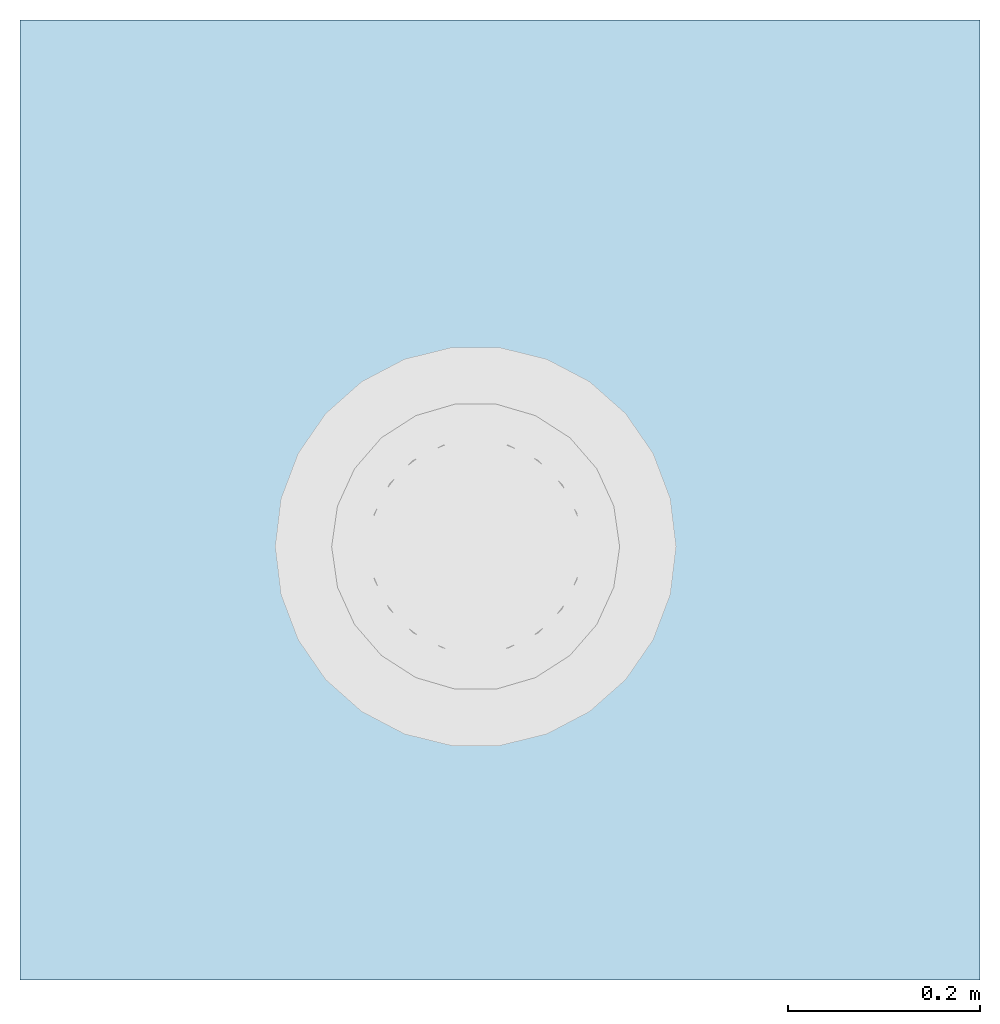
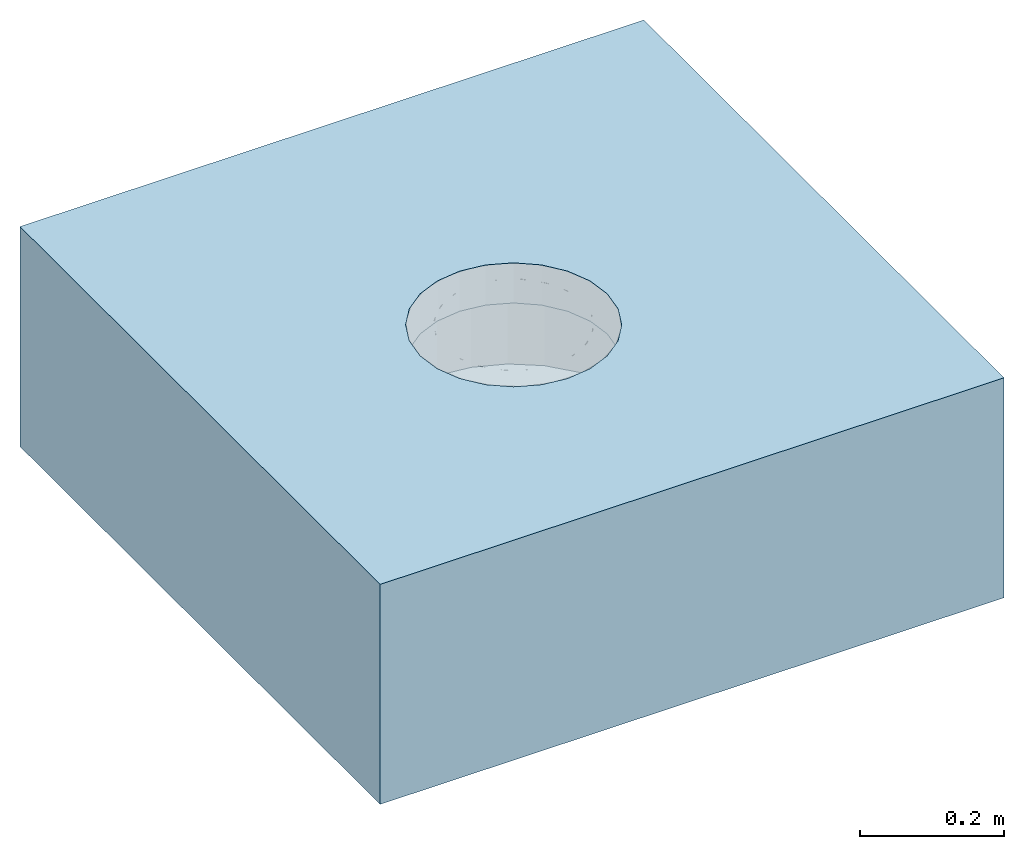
# One storey, incomplete: 1 slab, 1 opening.
"""IFC2X3 building model written with IfcOpenShell, lengths in millimetres."""

import ifcopenshell
import ifcopenshell.guid

model = None  # the IFC model being written
_history = None  # IfcOwnerHistory: only IFC2X3 demands one
_inside = {}  # id of a spatial element -> (the spatial element, [elements in it])
_under = {}  # id of a project, library or spatial element -> (it, [spatial elements below it])
_declared = {}  # id of a project -> (the project, [libraries it declares])
_typed = {}  # id of a type object -> (the type object, [elements of that type])
_made_of = {}  # id of a material, layer set ... -> (it, [elements and type objects made of it])


def new_model(schema):
    """Start an empty IFC model of exactly this schema.

    Asked for "IFC4X3", IfcOpenShell would pick the latest addendum, in which some entities
    have other attributes; the version numbers below select the first issue.
    IFC2X3 requires an IfcOwnerHistory on every rooted entity: one is made here for all.
    """
    global model, _history
    if schema == "IFC4X3":
        model = ifcopenshell.file(schema_version=(4, 3, 0, 0))
    else:
        model = ifcopenshell.file(schema=schema)
    _inside.clear()
    _under.clear()
    _declared.clear()
    _typed.clear()
    _made_of.clear()
    _history = None
    if model.schema == "IFC2X3":
        org = make("IfcOrganization", Name="unknown")
        user = make(
            "IfcPersonAndOrganization",
            ThePerson=make("IfcPerson", FamilyName="unknown"),
            TheOrganization=org,
        )
        app = make(
            "IfcApplication",
            ApplicationDeveloper=org,
            Version="unknown",
            ApplicationFullName="unknown",
            ApplicationIdentifier="unknown",
        )
        _history = make(
            "IfcOwnerHistory",
            OwningUser=user,
            OwningApplication=app,
            ChangeAction="ADDED",
            CreationDate=0,
        )
    return model


def make(cls, **values):
    """One entity of the class cls with the attributes given. An attribute that is None is left unset."""
    return model.create_entity(
        cls, **{name: value for name, value in values.items() if value is not None}
    )


def entity(cls, *values):
    """Any entity or typed value of the class cls, its attributes in the order of the schema. None: left unset."""
    e = model.create_entity(cls)
    for i, value in enumerate(values):
        if value is not None:
            e[i] = value
    return e


def rooted(cls, **values):
    """An entity with a GlobalId (a new one), such as an element, a storey or a relation."""
    return make(cls, GlobalId=ifcopenshell.guid.new(), OwnerHistory=_history, **values)


def si_unit(unit_type, name, prefix=None):
    """IfcSIUnit, for example si_unit("LENGTHUNIT", "METRE", prefix="MILLI")."""
    return make("IfcSIUnit", UnitType=unit_type, Prefix=prefix, Name=name)


def converted_unit(unit_type, name, factor, base, dimensions=None, offset=None):
    """IfcConversionBasedUnit, such as the inch: factor (a typed value) times the base unit."""
    return make(
        "IfcConversionBasedUnit"
        if offset is None
        else "IfcConversionBasedUnitWithOffset",
        ConversionOffset=offset,
        Dimensions=None
        if dimensions is None
        else entity("IfcDimensionalExponents", *dimensions),
        UnitType=unit_type,
        Name=name,
        ConversionFactor=make(
            "IfcMeasureWithUnit", ValueComponent=factor, UnitComponent=base
        ),
    )


def derived_unit(unit_type, elements):
    """IfcDerivedUnit: a product of units, each with its exponent."""
    return make(
        "IfcDerivedUnit",
        Elements=[
            make("IfcDerivedUnitElement", Unit=unit, Exponent=power)
            for unit, power in elements
        ],
        UnitType=unit_type,
    )


def assignment(units):
    """IfcUnitAssignment: the units of a project."""
    return None if units is None else make("IfcUnitAssignment", Units=units)


def point(xyz):
    """IfcCartesianPoint."""
    return None if xyz is None else make("IfcCartesianPoint", Coordinates=xyz)


def direction(xyz):
    """IfcDirection."""
    return None if xyz is None else make("IfcDirection", DirectionRatios=xyz)


def frame(location, z_axis=None, x_axis=None):
    """IfcAxis2Placement3D, a coordinate frame: its origin and axes. An axis left out is left unset."""
    return make(
        "IfcAxis2Placement3D",
        Location=point(location),
        Axis=direction(z_axis),
        RefDirection=direction(x_axis),
    )


def frame_2d(location, x_axis=None):
    """IfcAxis2Placement2D, a coordinate frame in the plane: its origin and x axis."""
    return make(
        "IfcAxis2Placement2D", Location=point(location), RefDirection=direction(x_axis)
    )


def origin():
    """The frame at (0, 0, 0) with its axes left unset."""
    return frame((0.0, 0.0, 0.0))


def place(relative_to, where):
    """IfcLocalPlacement: puts the frame where relative to a parent placement (None: the world)."""
    return make(
        "IfcLocalPlacement", PlacementRelTo=relative_to, RelativePlacement=where
    )


def context(
    kind, dimensions, precision=None, world=None, true_north=None, identifier=None
):
    """IfcGeometricRepresentationContext, for example the 3D "Model" context."""
    return make(
        "IfcGeometricRepresentationContext",
        ContextIdentifier=identifier,
        ContextType=kind,
        CoordinateSpaceDimension=dimensions,
        Precision=precision,
        WorldCoordinateSystem=world,
        TrueNorth=true_north,
    )


def subcontext(parent, identifier, kind, view, scale=None):
    """IfcGeometricRepresentationSubContext, for example "Body" below "Model"."""
    return make(
        "IfcGeometricRepresentationSubContext",
        ContextIdentifier=identifier,
        ContextType=kind,
        ParentContext=parent,
        TargetScale=scale,
        TargetView=view,
    )


def project(units=None, contexts=None):
    """IfcProject with its units and contexts."""
    return rooted(
        "IfcProject",
        Name="project",
        RepresentationContexts=contexts,
        UnitsInContext=assignment(units),
    )


def spatial(cls, under=None, at=None, **own):
    """A site, building, storey or space (cls), placed at a placement, below another one or the project."""
    s = rooted(cls, ObjectPlacement=at, **own)
    if under is not None:
        _under.setdefault(under.id(), (under, []))[1].append(s)
    return s


def profile(cls, at=None, kind="AREA", **sizes):
    """A parametric profile (cls). Its sizes go by their IFC names, for example OverallWidth=200.0."""
    return make(cls, ProfileType=kind, Position=at, **sizes)


def rectangle(**sizes):
    """IfcRectangleProfileDef."""
    return profile("IfcRectangleProfileDef", **sizes)


def extrude(swept, where, along, depth):
    """IfcExtrudedAreaSolid: the profile swept, set in the frame where, extruded along a direction by depth."""
    return make(
        "IfcExtrudedAreaSolid",
        SweptArea=swept,
        Position=where,
        ExtrudedDirection=direction(along),
        Depth=depth,
    )


def faces_of(points, faces, orient=None, outer=None):
    """IfcFace entities. A face is a list of loops; a loop is a list of indices into points, from 0.

    orient and outer hold one flag for each loop. By default every Orientation is true, the
    first loop of a face is its IfcFaceOuterBound and the others are IfcFaceBound.
    """
    made = []
    for i, loops in enumerate(faces):
        bounds = []
        for j, loop in enumerate(loops):
            is_outer = j == 0 if outer is None else outer[i][j]
            bounds.append(
                make(
                    "IfcFaceOuterBound" if is_outer else "IfcFaceBound",
                    Bound=make("IfcPolyLoop", Polygon=[points[k] for k in loop]),
                    Orientation=True if orient is None else orient[i][j],
                )
            )
        made.append(make("IfcFace", Bounds=bounds))
    return made


def faceted_brep(points, faces, orient=None, outer=None, voids=None):
    """IfcFacetedBrep: a solid bounded by flat faces; with voids (closed shells), ...WithVoids."""
    shared = [point(p) for p in points]
    hull = make("IfcClosedShell", CfsFaces=faces_of(shared, faces, orient, outer))
    if voids is None:
        return make("IfcFacetedBrep", Outer=hull)
    return make(
        "IfcFacetedBrepWithVoids",
        Outer=hull,
        Voids=[
            make(cls, CfsFaces=faces_of(shared, fs, o, b)) for cls, fs, o, b in voids
        ],
    )


def shape(context_of_items, identifier, shape_type, items):
    """IfcShapeRepresentation: the items that make up one representation, for example the "Body"."""
    return make(
        "IfcShapeRepresentation",
        ContextOfItems=context_of_items,
        RepresentationIdentifier=identifier,
        RepresentationType=shape_type,
        Items=items,
    )


def material(Name=None, Category=None):
    """IfcMaterial."""
    return make("IfcMaterial", Name=Name, Category=Category)


def layer(
    of_material, thickness, ventilated=None, Name=None, Category=None, Priority=None
):
    """IfcMaterialLayer: one layer of a wall or slab, of a material (None: an air gap)."""
    return make(
        "IfcMaterialLayer",
        Material=of_material,
        LayerThickness=thickness,
        IsVentilated=ventilated,
        Name=Name,
        Category=Category,
        Priority=Priority,
    )


def layer_set(layers, Name=None):
    """IfcMaterialLayerSet."""
    return make("IfcMaterialLayerSet", MaterialLayers=layers, LayerSetName=Name)


def layer_usage(for_layer_set, set_direction, sense, offset, extent=None):
    """IfcMaterialLayerSetUsage: how a layer set lies in its element."""
    return make(
        "IfcMaterialLayerSetUsage",
        ForLayerSet=for_layer_set,
        LayerSetDirection=set_direction,
        DirectionSense=sense,
        OffsetFromReferenceLine=offset,
        ReferenceExtent=extent,
    )


def made_of(thing, what):
    """Note that an element or type object is made of a material, layer set ...; save() writes the relation."""
    if what is not None:
        _made_of.setdefault(what.id(), (what, []))[1].append(thing)
    return thing


def element(
    cls,
    number,
    at=None,
    inside=None,
    cuts=None,
    type_object=None,
    material=None,
    context=None,
    identifier="Body",
    shape_type=None,
    held_by="IfcProductDefinitionShape",
    body=None,
    shapes=None,
    **own,
):
    """One element of the class cls, such as IfcWall. Its Tag is "e" and its number.

    at: its placement. inside: the storey or other place that contains it. cuts: it is an
    opening in that element (IfcRelVoidsElement). A single representation is given by context,
    identifier, shape_type and body (its items); several are given by shapes. held_by: the class
    of the entity that holds the representations. save() writes the other relations.
    """
    e = rooted(cls, Tag="e%d" % number, ObjectPlacement=at, **own)
    if body is not None:
        shapes = [shape(context, identifier, shape_type, body)]
    if shapes is not None:
        e.Representation = make(held_by, Representations=shapes)
    if inside is not None:
        _inside.setdefault(inside.id(), (inside, []))[1].append(e)
    if cuts is not None:
        rooted(
            "IfcRelVoidsElement", RelatingBuildingElement=cuts, RelatedOpeningElement=e
        )
    if type_object is not None:
        _typed.setdefault(type_object.id(), (type_object, []))[1].append(e)
    return made_of(e, material)


def aggregate(whole, parts):
    """IfcRelAggregates: a whole, such as a stair, and the parts it consists of."""
    return rooted("IfcRelAggregates", RelatingObject=whole, RelatedObjects=parts)


def save(model, path):
    """Write the relations noted so far, then the file.

    IfcRelAggregates (storeys below a building ...), IfcRelContainedInSpatialStructure (elements
    in a storey), IfcRelDefinesByType, IfcRelAssociatesMaterial and IfcRelDeclares: one each for
    every whole, place, type object, material and project.
    """
    for whole, parts in _under.values():
        aggregate(whole, parts)
    for where, things in _inside.values():
        rooted(
            "IfcRelContainedInSpatialStructure",
            RelatedElements=things,
            RelatingStructure=where,
        )
    for kind, things in _typed.values():
        rooted("IfcRelDefinesByType", RelatedObjects=things, RelatingType=kind)
    for what, things in _made_of.values():
        rooted("IfcRelAssociatesMaterial", RelatedObjects=things, RelatingMaterial=what)
    for by, libraries in _declared.values():
        rooted("IfcRelDeclares", RelatingContext=by, RelatedDefinitions=libraries)
    model.write(path)


model = new_model("IFC2X3")

# Units and contexts
model_context = context("Model", 3, precision=1e-05, world=origin(), true_north=direction((2.0, 6.12303176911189e-17, 1.0)))
context_of_model = context(None, 3, precision=1e-05, world=origin(), true_north=direction((2.0, 6.12303176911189e-17, 1.0)))
body_context = subcontext(model_context, "Body", "Model", "MODEL_VIEW")
ifc_project = project(units=[si_unit("LENGTHUNIT", "METRE", prefix="MILLI"), converted_unit("AREAUNIT", "SQUARE FOOT", entity("IfcRatioMeasure", 0.09290304), si_unit("AREAUNIT", "SQUARE_METRE"), dimensions=[2, 0, 0, 0, 0, 0, 0]), converted_unit("VOLUMEUNIT", "CUBIC FOOT", entity("IfcRatioMeasure", 0.028316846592), si_unit("VOLUMEUNIT", "CUBIC_METRE"), dimensions=[3, 0, 0, 0, 0, 0, 0]), converted_unit("PLANEANGLEUNIT", "DEGREE", entity("IfcRatioMeasure", 0.0174532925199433), si_unit("PLANEANGLEUNIT", "RADIAN"), dimensions=[0, 0, 0, 0, 0, 0, 0]), si_unit("MASSUNIT", "GRAM", prefix="KILO"), si_unit("TIMEUNIT", "SECOND"), si_unit("THERMODYNAMICTEMPERATUREUNIT", "KELVIN"), derived_unit("THERMALTRANSMITTANCEUNIT", [(si_unit("MASSUNIT", "GRAM", prefix="KILO"), 1), (si_unit("THERMODYNAMICTEMPERATUREUNIT", "KELVIN"), -1), (si_unit("TIMEUNIT", "SECOND"), -3)]), derived_unit("VOLUMETRICFLOWRATEUNIT", [(si_unit("LENGTHUNIT", "METRE"), 3), (si_unit("TIMEUNIT", "SECOND"), -1)]), si_unit("POWERUNIT", "WATT")], contexts=[model_context, context_of_model])

# Site, building, storey
site_placement = place(None, origin())
site = spatial("IfcSite", under=ifc_project, at=site_placement, Name="Default", CompositionType="ELEMENT")
building_placement = place(site_placement, origin())
building = spatial("IfcBuilding", under=site, at=building_placement, CompositionType="ELEMENT")
storey_placement = place(building_placement, origin())
storey = spatial("IfcBuildingStorey", under=building, at=storey_placement, Name="Level 1", CompositionType="ELEMENT", Elevation=0.0)

# Slab, opening
ifc_material_1 = material(Name="Plywood, Sheathing")
ifc_layer_1 = layer(ifc_material_1, 68.0)
ifc_material_2 = material(Name="Default Floor")
ifc_layer_2 = layer(ifc_material_2, 304.8)
ifc_layer_set = layer_set([ifc_layer_1, ifc_layer_2], Name="Floor:Generic - 12\"")
ifc_layer_usage = layer_usage(ifc_layer_set, "AXIS3", "POSITIVE", 0.0)
slab_placement = place(storey_placement, frame((-10598.0627721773, 2392.60708548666, -372.8)))
slab = element("IfcSlab", 1, at=slab_placement, inside=storey, material=ifc_layer_usage, Name="Floor:Generic - 12\"", ObjectType="Floor:Generic - 12\"", PredefinedType="FLOOR", context=body_context, shape_type="SweptSolid", body=[
    extrude(rectangle(XDim=1000.0, YDim=1000.0, at=frame_2d((0.0, 0.0), x_axis=(0.0, -1.0))), frame((500.0, 500.0, 372.8), z_axis=(0.0, 0.0, -1.0), x_axis=(-1.0, 0.0, 0.0)), (0.0, 0.0, 1.0), 372.8),
])
opening_placement = place(slab_placement, frame((262.094627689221, 237.345343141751, 150.204727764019)))
element("IfcOpeningElement", 2, at=opening_placement, cuts=slab, ObjectType="Recess", context=body_context, shape_type="Brep", body=[
    faceted_brep([(306.545407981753, 189.115280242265, 7.59527223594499), (306.545407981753, 239.075264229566, 7.59527223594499), (306.545407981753, 201.246010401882, 3.11727236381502), (306.545407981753, 214.095272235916, 1.5952722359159), (306.545407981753, 226.94453406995, 3.11727236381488), (411.545407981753, 214.095272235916, 1.5952722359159), (411.545407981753, 226.94453406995, 3.11727236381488), (411.545407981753, 201.246010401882, 3.11727236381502), (411.545407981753, 239.075264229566, 7.59527223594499), (411.545407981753, 189.115280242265, 7.59527223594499), (360.451389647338, 239.075264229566, 7.59527223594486), (360.451389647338, 189.115280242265, 7.59527223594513), (1.5952722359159, 239.709316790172, 7.59527223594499), (1.5952722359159, 188.48122768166, 7.59527223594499), (13.8549564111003, 289.448810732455, 7.59527223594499), (37.6618364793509, 334.809030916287, 7.59527223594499), (113.79223392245, 402.254677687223, 7.59527223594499), (161.691329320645, 420.420408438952, 7.59527223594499), (71.6323431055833, 373.153806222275, 7.59527223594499), (212.545907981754, 426.595272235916, 7.59527223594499), (37.6618364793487, 93.3815135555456, 7.59527223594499), (13.8549564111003, 138.741733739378, 7.59527223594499), (113.79223392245, 25.9358667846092, 7.59527223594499), (71.6323431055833, 55.036738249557, 7.59527223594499), (161.691329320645, 7.77013603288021, 7.59527223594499), (212.545907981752, 1.59527223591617, 7.59527223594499), (263.400486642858, 7.77013603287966, 7.59527223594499), (263.400486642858, 420.420408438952, 7.59527223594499), (311.299582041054, 402.254677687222, 7.59527223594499), (353.459472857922, 373.153806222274, 7.59527223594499), (387.429979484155, 334.809030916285, 7.59527223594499), (411.236859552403, 289.448810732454, 7.59527223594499), (423.496543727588, 239.709316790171, 7.59527223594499), (353.45947285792, 55.0367382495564, 7.59527223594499), (387.429979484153, 93.3815135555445, 7.59527223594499), (311.299582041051, 25.9358667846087, 7.59527223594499), (423.496543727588, 188.481227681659, 7.59527223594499), (411.236859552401, 138.741733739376, 7.59527223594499), (342.449809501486, 289.095324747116, 154.595272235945), (411.236859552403, 289.448810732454, 154.595272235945), (387.429979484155, 334.809030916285, 154.595272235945), (318.611999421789, 320.16136367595, 154.595272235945), (357.434883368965, 252.91815618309, 154.595272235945), (423.496543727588, 239.709316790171, 154.595272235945), (362.546013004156, 214.095272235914, 154.595272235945), (353.459472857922, 373.153806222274, 154.595272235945), (251.36879192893, 358.984247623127, 154.595272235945), (311.299582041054, 402.254677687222, 154.595272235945), (263.400486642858, 420.420408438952, 154.595272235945), (212.545907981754, 364.095377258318, 154.595272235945), (212.545907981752, 426.595272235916, 154.595272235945), (287.545960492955, 343.99917375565, 154.595272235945), (423.496543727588, 188.481227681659, 154.595272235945), (357.434883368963, 175.272388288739, 154.595272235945), (411.236859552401, 138.741733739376, 154.595272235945), (342.449809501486, 139.095219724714, 154.595272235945), (387.429979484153, 93.3815135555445, 154.595272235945), (353.45947285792, 55.0367382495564, 154.595272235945), (318.611999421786, 108.02918079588, 154.595272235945), (287.545960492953, 84.1913707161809, 154.595272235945), (311.299582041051, 25.9358667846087, 154.595272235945), (263.400486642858, 7.77013603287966, 154.595272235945), (251.368791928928, 69.206296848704, 154.595272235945), (212.545907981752, 64.0951672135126, 154.595272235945), (212.545907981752, 1.59527223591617, 154.595272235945), (161.691329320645, 420.420408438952, 154.595272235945), (173.723024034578, 358.984247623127, 154.595272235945), (113.79223392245, 402.254677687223, 154.595272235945), (137.545855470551, 343.999173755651, 154.595272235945), (71.6323431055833, 373.153806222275, 154.595272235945), (106.479816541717, 320.161363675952, 154.595272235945), (37.6618364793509, 334.809030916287, 154.595272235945), (82.6420064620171, 289.095324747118, 154.595272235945), (13.8549564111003, 289.448810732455, 154.595272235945), (67.6569325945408, 252.918156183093, 154.595272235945), (1.5952722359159, 239.709316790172, 154.595272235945), (62.5458029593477, 214.095272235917, 154.595272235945), (113.79223392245, 25.9358667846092, 154.595272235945), (137.545855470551, 84.1913707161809, 154.595272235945), (71.6323431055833, 55.036738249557, 154.595272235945), (173.723024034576, 69.206296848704, 154.595272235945), (161.691329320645, 7.77013603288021, 154.595272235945), (106.479816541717, 108.02918079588, 154.595272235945), (67.6569325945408, 175.272388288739, 154.595272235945), (1.5952722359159, 188.48122768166, 154.595272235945), (13.8549564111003, 138.741733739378, 154.595272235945), (37.6618364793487, 93.3815135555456, 154.595272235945), (82.6420064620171, 139.095219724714, 154.595272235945), (251.368791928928, 69.206296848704, 222.595272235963), (137.545855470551, 84.1913707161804, 222.595272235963), (212.545907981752, 64.0951672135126, 222.595272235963), (318.611999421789, 108.02918079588, 222.595272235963), (287.545960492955, 84.1913707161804, 222.595272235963), (342.449809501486, 139.095219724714, 222.595272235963), (357.434883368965, 175.272388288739, 222.595272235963), (82.6420064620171, 139.095219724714, 222.595272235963), (106.479816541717, 108.02918079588, 222.595272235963), (173.723024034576, 69.206296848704, 222.595272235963), (67.6569325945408, 175.272388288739, 222.595272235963), (62.5458029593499, 214.095272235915, 222.595272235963), (357.434883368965, 252.918156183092, 222.595272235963), (251.368791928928, 358.984247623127, 222.595272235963), (342.449809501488, 289.095324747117, 222.595272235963), (287.545960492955, 343.99917375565, 222.595272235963), (318.611999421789, 320.161363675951, 222.595272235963), (67.6569325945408, 252.918156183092, 222.595272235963), (106.479816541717, 320.161363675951, 222.595272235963), (82.6420064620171, 289.095324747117, 222.595272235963), (137.545855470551, 343.99917375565, 222.595272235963), (173.723024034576, 358.984247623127, 222.595272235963), (212.545907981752, 364.095377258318, 222.595272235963), (362.546013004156, 214.095272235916, 222.595272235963)], [[[0, 1, 2]], [[1, 3, 2]], [[3, 1, 4]], [[5, 6, 7]], [[7, 8, 9]], [[8, 7, 6]], [[3, 4, 5]], [[5, 4, 6]], [[10, 6, 4]], [[8, 6, 10]], [[10, 4, 1]], [[11, 7, 9]], [[2, 11, 0]], [[2, 3, 7]], [[5, 7, 3]], [[2, 7, 11]], [[12, 1, 13]], [[1, 12, 14]], [[15, 1, 14]], [[1, 16, 17]], [[16, 1, 18]], [[1, 15, 18]], [[19, 1, 17]], [[20, 21, 0]], [[0, 22, 23]], [[20, 0, 23]], [[24, 22, 0]], [[21, 13, 0]], [[25, 24, 0]], [[25, 0, 26]], [[19, 27, 1]], [[28, 29, 1]], [[30, 10, 1]], [[1, 29, 30]], [[28, 1, 27]], [[31, 8, 10]], [[8, 32, 9]], [[32, 8, 31]], [[31, 10, 30]], [[33, 0, 34]], [[33, 35, 0]], [[0, 11, 34]], [[0, 35, 26]], [[9, 36, 37]], [[36, 9, 32]], [[34, 11, 37]], [[37, 11, 9]], [[1, 0, 13]], [[38, 39, 40]], [[41, 38, 40]], [[39, 42, 43]], [[42, 39, 38]], [[43, 42, 44]], [[40, 45, 41]], [[46, 47, 48]], [[49, 48, 50]], [[46, 48, 49]], [[41, 45, 51]], [[46, 51, 47]], [[51, 45, 47]], [[52, 44, 53]], [[44, 52, 43]], [[52, 53, 54]], [[54, 55, 56]], [[57, 56, 58]], [[55, 54, 53]], [[59, 60, 57]], [[59, 57, 58]], [[61, 60, 62]], [[62, 63, 61]], [[60, 59, 62]], [[61, 63, 64]], [[58, 56, 55]], [[49, 65, 66]], [[66, 65, 67]], [[68, 66, 67]], [[69, 70, 68]], [[68, 67, 69]], [[70, 71, 72]], [[72, 71, 73]], [[73, 74, 72]], [[74, 73, 75]], [[74, 75, 76]], [[71, 70, 69]], [[77, 78, 79]], [[80, 78, 77]], [[81, 64, 63]], [[81, 80, 77]], [[78, 82, 79]], [[63, 80, 81]], [[83, 76, 84]], [[84, 76, 75]], [[83, 84, 85]], [[86, 82, 87]], [[82, 86, 79]], [[85, 86, 87]], [[87, 83, 85]], [[49, 50, 65]], [[64, 25, 26]], [[35, 61, 26]], [[34, 37, 56]], [[57, 33, 34]], [[60, 35, 33]], [[54, 37, 36]], [[26, 61, 64]], [[35, 60, 61]], [[33, 57, 60]], [[34, 56, 57]], [[54, 56, 37]], [[36, 52, 54]], [[36, 32, 52]], [[43, 32, 31]], [[30, 39, 31]], [[28, 27, 47]], [[45, 29, 28]], [[40, 30, 29]], [[48, 27, 19]], [[31, 39, 43]], [[30, 40, 39]], [[29, 45, 40]], [[28, 47, 45]], [[48, 47, 27]], [[19, 50, 48]], [[32, 43, 52]], [[17, 65, 19]], [[16, 67, 17]], [[15, 14, 73]], [[16, 18, 69]], [[14, 12, 73]], [[18, 15, 69]], [[17, 67, 65]], [[65, 50, 19]], [[16, 69, 67]], [[73, 71, 15]], [[12, 75, 73]], [[15, 71, 69]], [[12, 13, 75]], [[84, 13, 21]], [[20, 85, 21]], [[22, 24, 77]], [[79, 23, 22]], [[86, 20, 23]], [[81, 24, 25]], [[21, 85, 84]], [[20, 86, 85]], [[23, 79, 86]], [[22, 77, 79]], [[81, 77, 24]], [[25, 64, 81]], [[13, 84, 75]], [[88, 89, 90]], [[91, 88, 92]], [[91, 93, 94]], [[88, 91, 89]], [[94, 89, 91]], [[89, 95, 96]], [[89, 97, 90]], [[89, 98, 95]], [[98, 89, 99]], [[94, 99, 89]], [[94, 100, 99]], [[99, 100, 101]], [[101, 100, 102]], [[103, 101, 102]], [[103, 102, 104]], [[99, 101, 105]], [[105, 106, 107]], [[106, 105, 108]], [[101, 109, 108]], [[108, 105, 101]], [[110, 109, 101]], [[100, 94, 111]], [[42, 38, 102]], [[44, 42, 100]], [[51, 46, 101]], [[41, 51, 103]], [[38, 41, 104]], [[42, 102, 100]], [[100, 111, 44]], [[104, 102, 38]], [[104, 41, 103]], [[101, 103, 51]], [[101, 46, 110]], [[46, 49, 110]], [[109, 49, 66]], [[109, 66, 68]], [[72, 74, 107]], [[70, 72, 106]], [[68, 70, 108]], [[70, 106, 108]], [[108, 109, 68]], [[74, 105, 107]], [[107, 106, 72]], [[99, 105, 76]], [[74, 76, 105]], [[49, 109, 110]], [[83, 87, 95]], [[76, 83, 98]], [[78, 80, 97]], [[82, 78, 89]], [[87, 82, 96]], [[83, 95, 98]], [[98, 99, 76]], [[97, 89, 78]], [[96, 82, 89]], [[96, 95, 87]], [[90, 97, 80]], [[80, 63, 90]], [[92, 62, 59]], [[88, 63, 62]], [[91, 58, 55]], [[58, 92, 59]], [[93, 55, 53]], [[88, 62, 92]], [[92, 58, 91]], [[53, 94, 93]], [[93, 91, 55]], [[111, 94, 44]], [[53, 44, 94]], [[63, 88, 90]]]),
])

save(model, "model.ifc")
